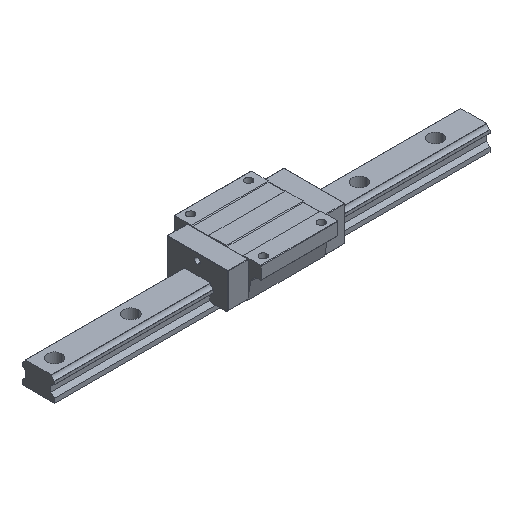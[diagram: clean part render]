
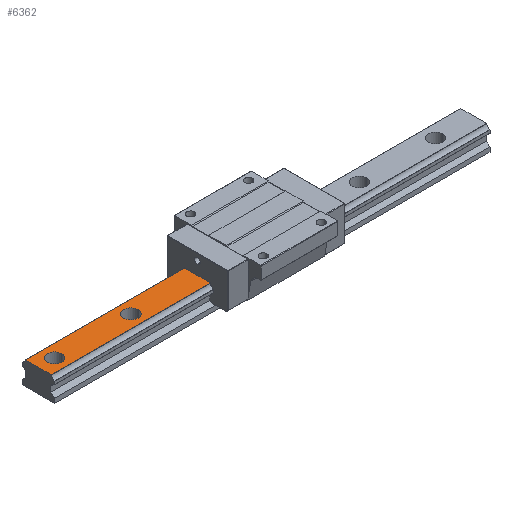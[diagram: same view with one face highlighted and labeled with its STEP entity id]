
A CAD part, isometric view. The second image highlights one B-rep face of the part: STEP entity #6362.
In plain terms, the highlighted planar face has unit normal (0, 0, 1).
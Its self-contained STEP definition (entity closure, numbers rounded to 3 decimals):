
#243 = VERTEX_POINT ( 'NONE', #262 ) ;
#262 = CARTESIAN_POINT ( 'NONE',  ( -300., -17.738, 32. ) ) ;
#331 = DIRECTION ( 'NONE',  ( -1., 0., 0. ) ) ;
#439 = CARTESIAN_POINT ( 'NONE',  ( -277.5, 0., 32. ) ) ;
#507 = EDGE_CURVE ( 'NONE', #2198, #243, #3704, .T. ) ;
#548 = DIRECTION ( 'NONE',  ( -1., 0., 0. ) ) ;
#605 = FACE_BOUND ( 'NONE', #4050, .T. ) ;
#716 = CARTESIAN_POINT ( 'NONE',  ( -80.75, -17.738, 32. ) ) ;
#760 = EDGE_LOOP ( 'NONE', ( #2090, #5663 ) ) ;
#834 = AXIS2_PLACEMENT_3D ( 'NONE', #439, #6334, #2469 ) ;
#1058 = EDGE_CURVE ( 'NONE', #2393, #3788, #4480, .T. ) ;
#1089 = VECTOR ( 'NONE', #1671, 1000. ) ;
#1108 = LINE ( 'NONE', #1514, #1206 ) ;
#1125 = PLANE ( 'NONE',  #4799 ) ;
#1178 = EDGE_CURVE ( 'NONE', #6347, #2198, #1108, .T. ) ;
#1206 = VECTOR ( 'NONE', #548, 1000. ) ;
#1322 = CARTESIAN_POINT ( 'NONE',  ( -172.5, 0., 32. ) ) ;
#1514 = CARTESIAN_POINT ( 'NONE',  ( 300., 17.738, 32. ) ) ;
#1529 = ORIENTED_EDGE ( 'NONE', *, *, #5645, .F. ) ;
#1671 = DIRECTION ( 'NONE',  ( 0., -1., 0. ) ) ;
#1714 = DIRECTION ( 'NONE',  ( 0., 0., -1. ) ) ;
#1737 = DIRECTION ( 'NONE',  ( 1., 0., 0. ) ) ;
#1778 = EDGE_CURVE ( 'NONE', #2597, #2602, #5400, .T. ) ;
#1933 = DIRECTION ( 'NONE',  ( 0., 0., -1. ) ) ;
#1943 = ORIENTED_EDGE ( 'NONE', *, *, #1778, .T. ) ;
#2090 = ORIENTED_EDGE ( 'NONE', *, *, #1058, .T. ) ;
#2198 = VERTEX_POINT ( 'NONE', #4756 ) ;
#2208 = CARTESIAN_POINT ( 'NONE',  ( -182.5, 0., 32. ) ) ;
#2319 = AXIS2_PLACEMENT_3D ( 'NONE', #4064, #1714, #5094 ) ;
#2393 = VERTEX_POINT ( 'NONE', #3947 ) ;
#2469 = DIRECTION ( 'NONE',  ( -1., 0., 0. ) ) ;
#2597 = VERTEX_POINT ( 'NONE', #2208 ) ;
#2602 = VERTEX_POINT ( 'NONE', #6140 ) ;
#2878 = CARTESIAN_POINT ( 'NONE',  ( -277.5, 0., 32. ) ) ;
#3097 = VECTOR ( 'NONE', #1737, 1000. ) ;
#3150 = FACE_BOUND ( 'NONE', #760, .T. ) ;
#3161 = LINE ( 'NONE', #6155, #3097 ) ;
#3165 = LINE ( 'NONE', #716, #5316 ) ;
#3294 = DIRECTION ( 'NONE',  ( 0., 0., -1. ) ) ;
#3466 = CARTESIAN_POINT ( 'NONE',  ( -80.75, 17.738, 32. ) ) ;
#3704 = LINE ( 'NONE', #5121, #1089 ) ;
#3788 = VERTEX_POINT ( 'NONE', #5286 ) ;
#3801 = CIRCLE ( 'NONE', #4733, 10. ) ;
#3906 = DIRECTION ( 'NONE',  ( -1., 0., 0. ) ) ;
#3947 = CARTESIAN_POINT ( 'NONE',  ( -267.5, 0., 32. ) ) ;
#4050 = EDGE_LOOP ( 'NONE', ( #4212, #1943 ) ) ;
#4064 = CARTESIAN_POINT ( 'NONE',  ( -172.5, 0., 32. ) ) ;
#4138 = ORIENTED_EDGE ( 'NONE', *, *, #1178, .T. ) ;
#4179 = VERTEX_POINT ( 'NONE', #4379 ) ;
#4212 = ORIENTED_EDGE ( 'NONE', *, *, #4642, .T. ) ;
#4227 = CIRCLE ( 'NONE', #834, 10. ) ;
#4379 = CARTESIAN_POINT ( 'NONE',  ( -80.75, -17.738, 32. ) ) ;
#4480 = CIRCLE ( 'NONE', #5925, 10. ) ;
#4595 = DIRECTION ( 'NONE',  ( 0., -1., 0. ) ) ;
#4642 = EDGE_CURVE ( 'NONE', #2602, #2597, #3801, .T. ) ;
#4733 = AXIS2_PLACEMENT_3D ( 'NONE', #1322, #3294, #331 ) ;
#4756 = CARTESIAN_POINT ( 'NONE',  ( -300., 17.738, 32. ) ) ;
#4799 = AXIS2_PLACEMENT_3D ( 'NONE', #5113, #6048, #4595 ) ;
#4875 = ORIENTED_EDGE ( 'NONE', *, *, #507, .T. ) ;
#4984 = EDGE_CURVE ( 'NONE', #243, #4179, #3161, .T. ) ;
#5047 = FACE_OUTER_BOUND ( 'NONE', #5151, .T. ) ;
#5094 = DIRECTION ( 'NONE',  ( -1., 0., 0. ) ) ;
#5113 = CARTESIAN_POINT ( 'NONE',  ( 300., 0., 32. ) ) ;
#5121 = CARTESIAN_POINT ( 'NONE',  ( -300., 0., 32. ) ) ;
#5151 = EDGE_LOOP ( 'NONE', ( #1529, #4138, #4875, #5490 ) ) ;
#5167 = EDGE_CURVE ( 'NONE', #3788, #2393, #4227, .T. ) ;
#5286 = CARTESIAN_POINT ( 'NONE',  ( -287.5, 0., 32. ) ) ;
#5316 = VECTOR ( 'NONE', #6119, 1000. ) ;
#5400 = CIRCLE ( 'NONE', #2319, 10. ) ;
#5490 = ORIENTED_EDGE ( 'NONE', *, *, #4984, .T. ) ;
#5645 = EDGE_CURVE ( 'NONE', #6347, #4179, #3165, .T. ) ;
#5663 = ORIENTED_EDGE ( 'NONE', *, *, #5167, .T. ) ;
#5925 = AXIS2_PLACEMENT_3D ( 'NONE', #2878, #1933, #3906 ) ;
#6048 = DIRECTION ( 'NONE',  ( 0., 0., -1. ) ) ;
#6119 = DIRECTION ( 'NONE',  ( 0., -1., 0. ) ) ;
#6140 = CARTESIAN_POINT ( 'NONE',  ( -162.5, 0., 32. ) ) ;
#6155 = CARTESIAN_POINT ( 'NONE',  ( 300., -17.738, 32. ) ) ;
#6334 = DIRECTION ( 'NONE',  ( 0., 0., -1. ) ) ;
#6347 = VERTEX_POINT ( 'NONE', #3466 ) ;
#6362 = ADVANCED_FACE ( 'NONE', ( #5047, #3150, #605 ), #1125, .F. ) ;
